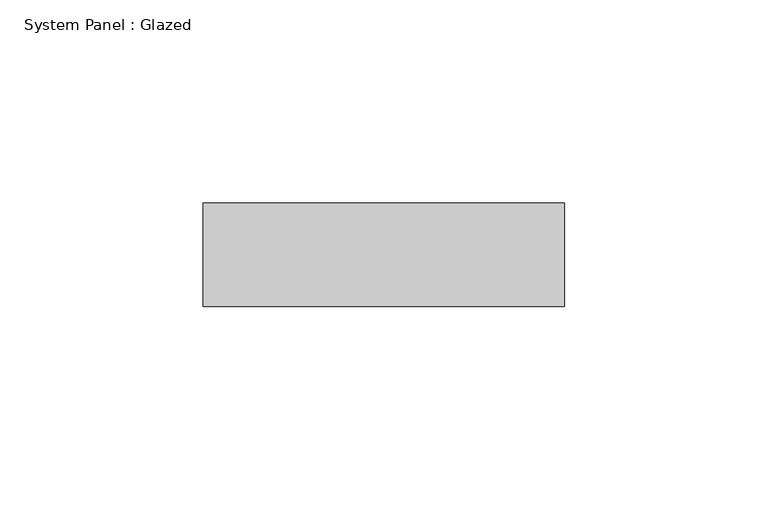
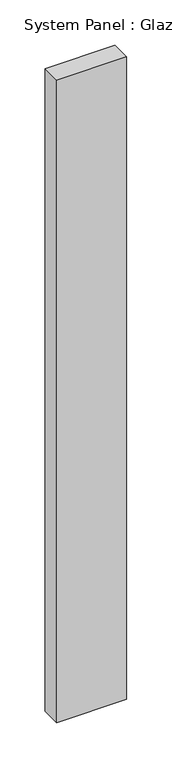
"""IFC4 building model written with IfcOpenShell, lengths in millimetres: plate geometry, System Panel : Glazed."""

from ifc_helpers import new_model, si_unit, origin, origin_with_axes, place, context, project, spatial, polyline, outline, extrude, source, transform, mapped, element, save


def system_panel_glazed_ea252b82(model_context):
    return source(origin(), model_context, "Body", "SweptSolid", [
        extrude(outline(polyline([(44.45, 19.05), (-44.45, 19.05), (-44.45, 44.45), (44.45, 44.45), (44.45, 19.05)])), origin_with_axes(), (0.0, 0.0, 1.0), 863.6),
    ])


if __name__ == "__main__":
    model = new_model("IFC4")
    model_context = context("Model", 3, world=origin())
    ifc_project = project(units=[si_unit("LENGTHUNIT", "METRE", prefix="MILLI")], contexts=[model_context])
    site = spatial("IfcSite", under=ifc_project)
    building = spatial("IfcBuilding", under=site)
    placement = place(None, origin())
    system_panel_glazed_shape = system_panel_glazed_ea252b82(model_context)
    element("IfcPlate", 1, ObjectType="System Panel : Glazed", at=placement, inside=building, context=model_context, shape_type="MappedRepresentation", body=[
        mapped(system_panel_glazed_shape, transform((0.0, 0.0, 0.0), x_axis=(1.0, 0.0, 0.0), y_axis=(0.0, 1.0, 0.0), z_axis=(0.0, 0.0, 1.0))),
    ])
    save(model, "model.ifc")
